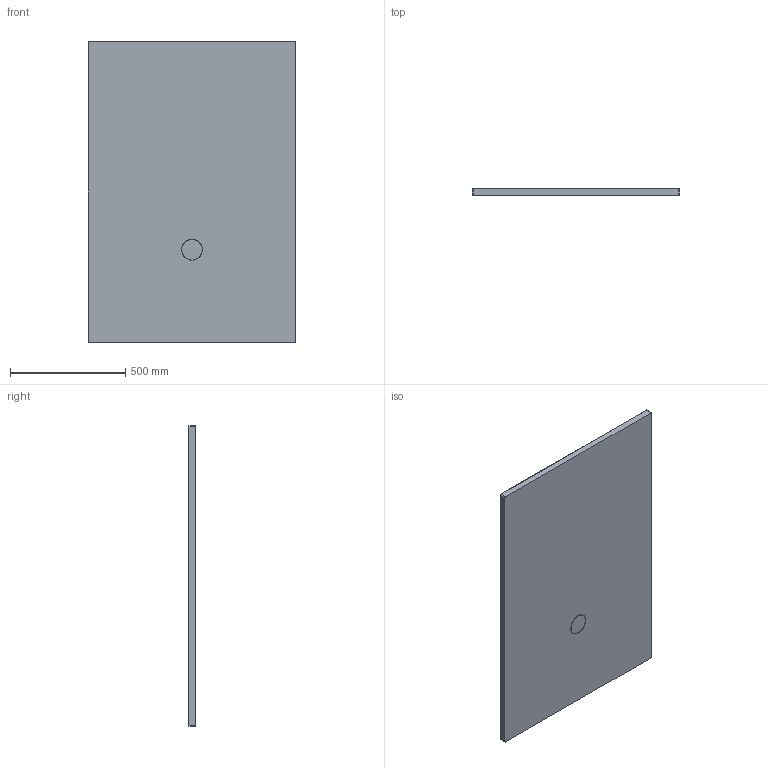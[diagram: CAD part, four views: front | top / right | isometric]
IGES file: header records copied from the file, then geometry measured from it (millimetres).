
Start section: SolidWorks IGES file using analytic representation for surfaces
Global section: file name: D:\Users\M.Szymanski\Desktop\Brodziki\Nias\B_M_NIAS_130x90x1,5.IGS; native system: SolidWorks 2011; preprocessor: SolidWorks 2011; author: M.Szymanski; date: 180222.142154; units: millimetre
Bounding box: 900 x 30 x 1300 mm (x, y, z)
Surface area: 2491978.1 mm2 (no closed solid volume)
Topology: 0 solids, 0 shells, 45 faces, 662 edges, 661 vertices
Faces by surface type: bspline 25, revolution 20
